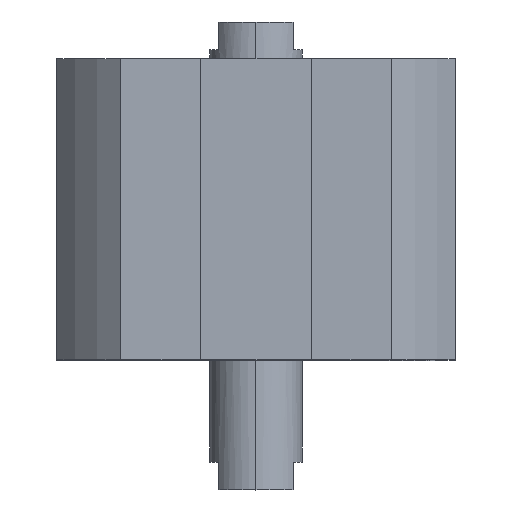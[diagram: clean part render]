
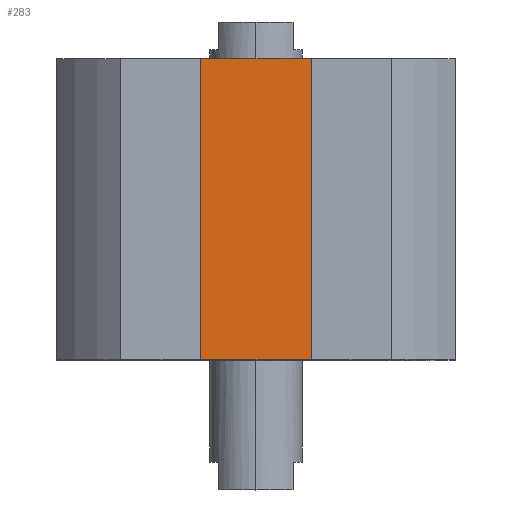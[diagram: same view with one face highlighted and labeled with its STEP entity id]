
A CAD part, top view. The second image highlights one B-rep face of the part: STEP entity #283.
In plain terms, the highlighted planar face has unit normal (0, 0, 1).
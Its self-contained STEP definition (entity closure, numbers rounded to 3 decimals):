
#57 = DIRECTION ( 'NONE',  ( 0., 0., 1. ) ) ;
#195 = CARTESIAN_POINT ( 'NONE',  ( -7.7, -32.5, 14. ) ) ;
#227 = DIRECTION ( 'NONE',  ( 0., 1., 0. ) ) ;
#259 = LINE ( 'NONE', #195, #1018 ) ;
#283 = ADVANCED_FACE ( 'NONE', ( #3195 ), #1874, .T. ) ;
#554 = CARTESIAN_POINT ( 'NONE',  ( 7.7, 0., 14. ) ) ;
#791 = ORIENTED_EDGE ( 'NONE', *, *, #1836, .T. ) ;
#878 = CARTESIAN_POINT ( 'NONE',  ( 0., 0., 14. ) ) ;
#928 = DIRECTION ( 'NONE',  ( 1., 0., 0. ) ) ;
#976 = CARTESIAN_POINT ( 'NONE',  ( 0., -32.5, 14. ) ) ;
#1018 = VECTOR ( 'NONE', #227, 1000. ) ;
#1174 = EDGE_CURVE ( 'NONE', #1850, #2413, #1741, .T. ) ;
#1257 = VERTEX_POINT ( 'NONE', #1468 ) ;
#1410 = EDGE_LOOP ( 'NONE', ( #3776, #2121, #791, #1756 ) ) ;
#1468 = CARTESIAN_POINT ( 'NONE',  ( -7.7, -32.5, 14. ) ) ;
#1506 = DIRECTION ( 'NONE',  ( 1., 0., 0. ) ) ;
#1741 = LINE ( 'NONE', #3792, #3100 ) ;
#1756 = ORIENTED_EDGE ( 'NONE', *, *, #1174, .T. ) ;
#1836 = EDGE_CURVE ( 'NONE', #1257, #1850, #2341, .T. ) ;
#1850 = VERTEX_POINT ( 'NONE', #2081 ) ;
#1874 = PLANE ( 'NONE',  #3390 ) ;
#2075 = DIRECTION ( 'NONE',  ( 0., 1., 0. ) ) ;
#2081 = CARTESIAN_POINT ( 'NONE',  ( 7.7, -32.5, 14. ) ) ;
#2121 = ORIENTED_EDGE ( 'NONE', *, *, #3663, .F. ) ;
#2341 = LINE ( 'NONE', #976, #3835 ) ;
#2380 = LINE ( 'NONE', #878, #3648 ) ;
#2413 = VERTEX_POINT ( 'NONE', #554 ) ;
#2543 = EDGE_CURVE ( 'NONE', #3147, #2413, #2380, .T. ) ;
#2690 = DIRECTION ( 'NONE',  ( 1., 0., 0. ) ) ;
#3100 = VECTOR ( 'NONE', #2075, 1000. ) ;
#3147 = VERTEX_POINT ( 'NONE', #3473 ) ;
#3195 = FACE_OUTER_BOUND ( 'NONE', #1410, .T. ) ;
#3390 = AXIS2_PLACEMENT_3D ( 'NONE', #3665, #57, #928 ) ;
#3473 = CARTESIAN_POINT ( 'NONE',  ( -7.7, 0., 14. ) ) ;
#3648 = VECTOR ( 'NONE', #1506, 1000. ) ;
#3663 = EDGE_CURVE ( 'NONE', #1257, #3147, #259, .T. ) ;
#3665 = CARTESIAN_POINT ( 'NONE',  ( 0., -32.5, 14. ) ) ;
#3776 = ORIENTED_EDGE ( 'NONE', *, *, #2543, .F. ) ;
#3792 = CARTESIAN_POINT ( 'NONE',  ( 7.7, -32.5, 14. ) ) ;
#3835 = VECTOR ( 'NONE', #2690, 1000. ) ;
